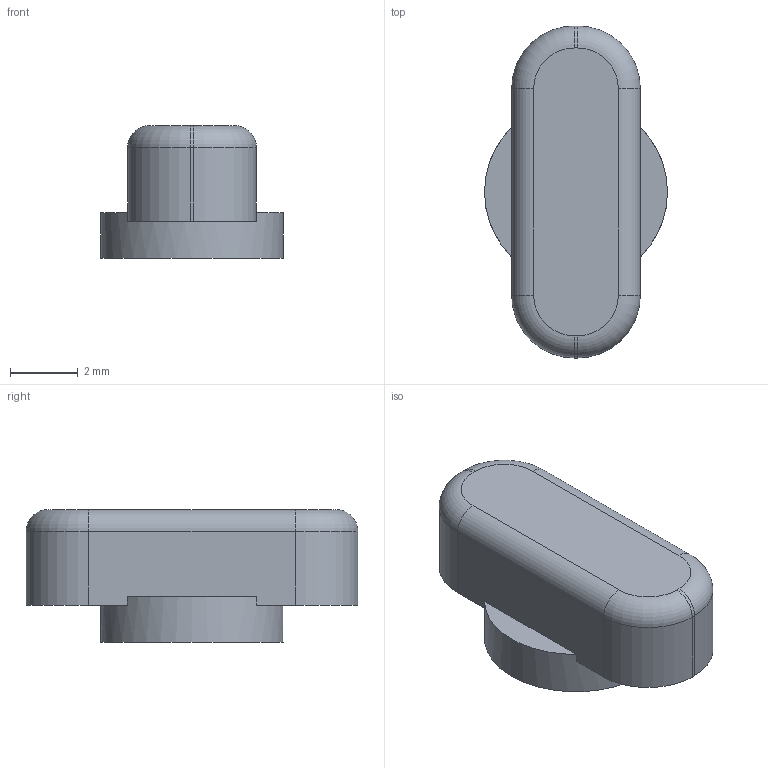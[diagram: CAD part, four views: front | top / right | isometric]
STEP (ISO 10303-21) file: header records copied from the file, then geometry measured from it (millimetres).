
FILE_DESCRIPTION(('Open CASCADE Model'),'2;1');
FILE_NAME('C27_R2_04_Status_Lens','2026-09-09T17:52:55',('Author'),( 'Open CASCADE'),'Open CASCADE STEP processor 7.9','build123d', 'Unknown');
FILE_SCHEMA(('AUTOMOTIVE_DESIGN { 1 0 10303 214 1 1 1 1 }'));
Length unit declared in the file: millimetre
Products named in the file (2): C27_R2_04_Status_Lens
Assembly tree (1 placements, depth 2):
  C27_R2_04_Status_Lens
    C27_R2_04_Status_Lens
Bounding box: 5.4 x 9.8 x 3.92 mm (x, y, z)
Volume: 120.9 mm3; surface area: 156.8 mm2
Topology: 1 solids, 1 shells, 23 faces, 55 edges, 34 vertices
Faces by surface type: plane 10, cylinder 9, torus 4
Full cylindrical faces by diameter (mm): 5.4 x1
Entity records: 1420 total; most frequent: DIRECTION 239, CARTESIAN_POINT 236, LINE 125, VECTOR 125, ORIENTED_EDGE 110, PCURVE 110, DEFINITIONAL_REPRESENTATION 110, EDGE_CURVE 55
